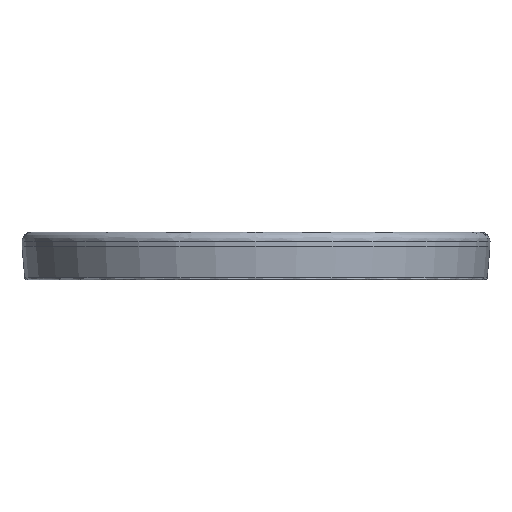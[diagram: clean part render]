
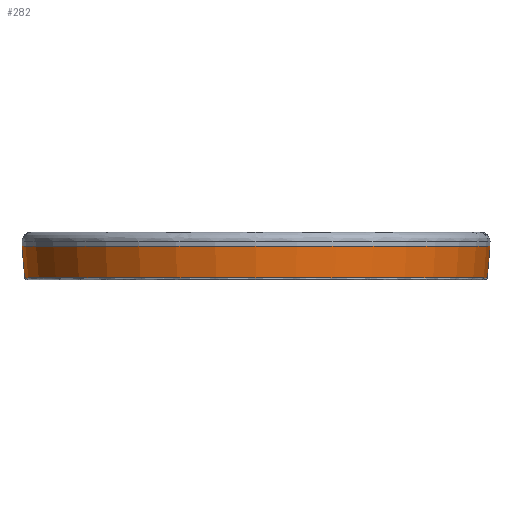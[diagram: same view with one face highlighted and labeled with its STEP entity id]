
A CAD part, left-side view. The second image highlights one B-rep face of the part: STEP entity #282.
In plain terms, the highlighted conical face has half-angle 5 degrees and reference radius 49 mm.
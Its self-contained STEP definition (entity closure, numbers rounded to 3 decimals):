
#23 = AXIS2_PLACEMENT_3D ( 'NONE', #2064, #2234, #774 ) ;
#48 = CARTESIAN_POINT ( 'NONE',  ( 0., 0., 2. ) ) ;
#66 = CIRCLE ( 'NONE', #1425, 49. ) ;
#211 = CARTESIAN_POINT ( 'NONE',  ( 0., 49., 2. ) ) ;
#282 = ADVANCED_FACE ( 'NONE', ( #597 ), #2240, .T. ) ;
#392 = CARTESIAN_POINT ( 'NONE',  ( 0., 48.428, -4.544 ) ) ;
#401 = CARTESIAN_POINT ( 'NONE',  ( 0., -48.428, -4.544 ) ) ;
#483 = ORIENTED_EDGE ( 'NONE', *, *, #989, .F. ) ;
#537 = VECTOR ( 'NONE', #801, 1000. ) ;
#597 = FACE_OUTER_BOUND ( 'NONE', #1734, .T. ) ;
#598 = CARTESIAN_POINT ( 'NONE',  ( 0., -49., 2. ) ) ;
#599 = VERTEX_POINT ( 'NONE', #211 ) ;
#647 = EDGE_CURVE ( 'NONE', #1675, #2394, #1040, .T. ) ;
#654 = CARTESIAN_POINT ( 'NONE',  ( 0., -49., 2. ) ) ;
#774 = DIRECTION ( 'NONE',  ( 0., -1., 0. ) ) ;
#801 = DIRECTION ( 'NONE',  ( 0., -0.087, 0.996 ) ) ;
#900 = EDGE_CURVE ( 'NONE', #2394, #599, #66, .T. ) ;
#973 = VECTOR ( 'NONE', #1460, 1000. ) ;
#989 = EDGE_CURVE ( 'NONE', #1675, #1626, #1009, .T. ) ;
#1009 = CIRCLE ( 'NONE', #23, 48.428 ) ;
#1040 = LINE ( 'NONE', #598, #537 ) ;
#1041 = DIRECTION ( 'NONE',  ( 0., 0., -1. ) ) ;
#1105 = AXIS2_PLACEMENT_3D ( 'NONE', #48, #1356, #1388 ) ;
#1213 = CARTESIAN_POINT ( 'NONE',  ( 0., 0., 2. ) ) ;
#1356 = DIRECTION ( 'NONE',  ( 0., 0., 1. ) ) ;
#1388 = DIRECTION ( 'NONE',  ( 0., -1., 0. ) ) ;
#1396 = DIRECTION ( 'NONE',  ( 0., 1., 0. ) ) ;
#1425 = AXIS2_PLACEMENT_3D ( 'NONE', #1213, #1041, #1396 ) ;
#1460 = DIRECTION ( 'NONE',  ( 0., 0.087, 0.996 ) ) ;
#1626 = VERTEX_POINT ( 'NONE', #392 ) ;
#1646 = CARTESIAN_POINT ( 'NONE',  ( 0., 49., 2. ) ) ;
#1675 = VERTEX_POINT ( 'NONE', #401 ) ;
#1724 = LINE ( 'NONE', #1646, #973 ) ;
#1734 = EDGE_LOOP ( 'NONE', ( #1803, #483, #1901, #2001 ) ) ;
#1803 = ORIENTED_EDGE ( 'NONE', *, *, #2113, .F. ) ;
#1901 = ORIENTED_EDGE ( 'NONE', *, *, #647, .T. ) ;
#2001 = ORIENTED_EDGE ( 'NONE', *, *, #900, .T. ) ;
#2064 = CARTESIAN_POINT ( 'NONE',  ( 0., 0., -4.544 ) ) ;
#2113 = EDGE_CURVE ( 'NONE', #1626, #599, #1724, .T. ) ;
#2234 = DIRECTION ( 'NONE',  ( 0., 0., -1. ) ) ;
#2240 = CONICAL_SURFACE ( 'NONE', #1105, 49., 0.087 ) ;
#2394 = VERTEX_POINT ( 'NONE', #654 ) ;
